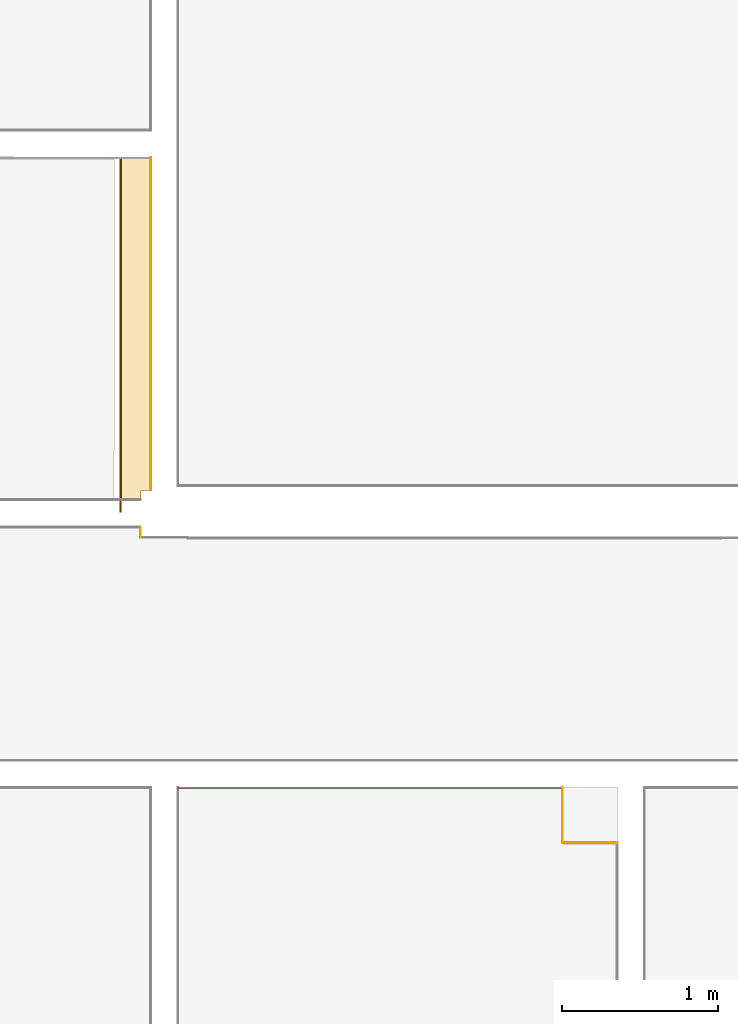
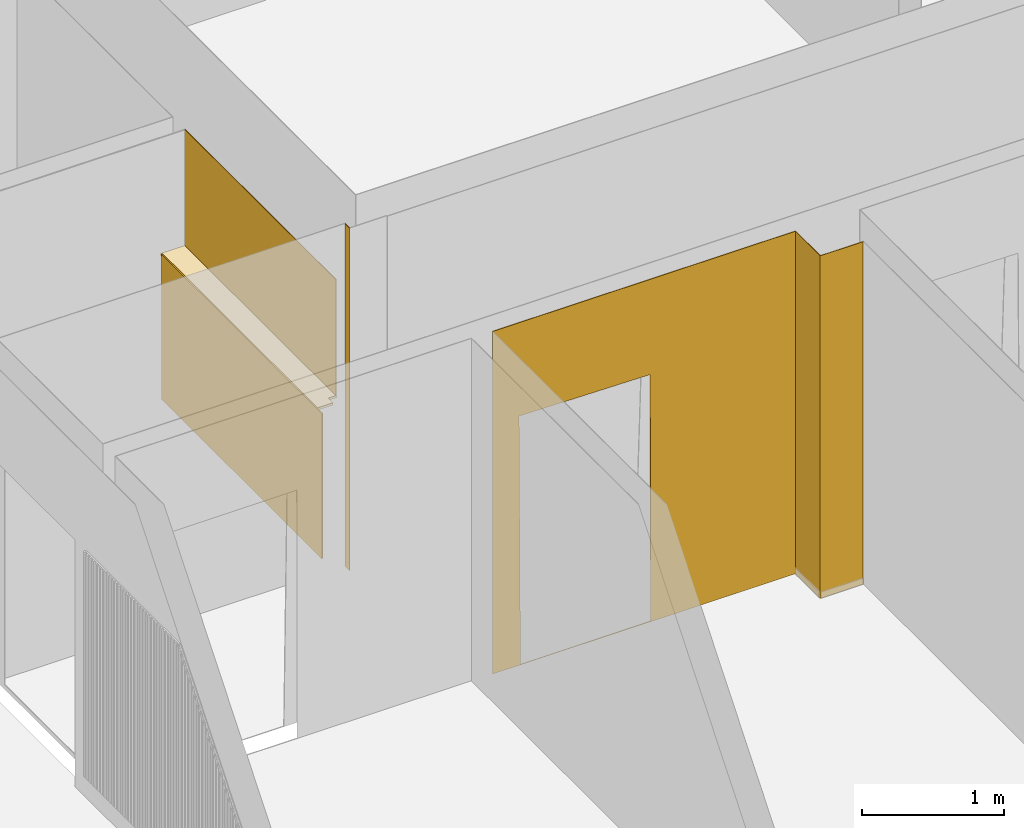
# One storey, part 8 of 33: 7 coverings, 1 opening.
"""IFC2X3 building model written with IfcOpenShell, lengths in millimetres."""

import ifcopenshell
import ifcopenshell.guid

model = None  # the IFC model being written
_history = None  # IfcOwnerHistory: only IFC2X3 demands one
_inside = {}  # id of a spatial element -> (the spatial element, [elements in it])
_under = {}  # id of a project, library or spatial element -> (it, [spatial elements below it])
_declared = {}  # id of a project -> (the project, [libraries it declares])
_typed = {}  # id of a type object -> (the type object, [elements of that type])
_made_of = {}  # id of a material, layer set ... -> (it, [elements and type objects made of it])


def new_model(schema):
    """Start an empty IFC model of exactly this schema.

    Asked for "IFC4X3", IfcOpenShell would pick the latest addendum, in which some entities
    have other attributes; the version numbers below select the first issue.
    IFC2X3 requires an IfcOwnerHistory on every rooted entity: one is made here for all.
    """
    global model, _history
    if schema == "IFC4X3":
        model = ifcopenshell.file(schema_version=(4, 3, 0, 0))
    else:
        model = ifcopenshell.file(schema=schema)
    _inside.clear()
    _under.clear()
    _declared.clear()
    _typed.clear()
    _made_of.clear()
    _history = None
    if model.schema == "IFC2X3":
        org = make("IfcOrganization", Name="unknown")
        user = make(
            "IfcPersonAndOrganization",
            ThePerson=make("IfcPerson", FamilyName="unknown"),
            TheOrganization=org,
        )
        app = make(
            "IfcApplication",
            ApplicationDeveloper=org,
            Version="unknown",
            ApplicationFullName="unknown",
            ApplicationIdentifier="unknown",
        )
        _history = make(
            "IfcOwnerHistory",
            OwningUser=user,
            OwningApplication=app,
            ChangeAction="ADDED",
            CreationDate=0,
        )
    return model


def make(cls, **values):
    """One entity of the class cls with the attributes given. An attribute that is None is left unset."""
    return model.create_entity(
        cls, **{name: value for name, value in values.items() if value is not None}
    )


def entity(cls, *values):
    """Any entity or typed value of the class cls, its attributes in the order of the schema. None: left unset."""
    e = model.create_entity(cls)
    for i, value in enumerate(values):
        if value is not None:
            e[i] = value
    return e


def rooted(cls, **values):
    """An entity with a GlobalId (a new one), such as an element, a storey or a relation."""
    return make(cls, GlobalId=ifcopenshell.guid.new(), OwnerHistory=_history, **values)


def si_unit(unit_type, name, prefix=None):
    """IfcSIUnit, for example si_unit("LENGTHUNIT", "METRE", prefix="MILLI")."""
    return make("IfcSIUnit", UnitType=unit_type, Prefix=prefix, Name=name)


def converted_unit(unit_type, name, factor, base, dimensions=None, offset=None):
    """IfcConversionBasedUnit, such as the inch: factor (a typed value) times the base unit."""
    return make(
        "IfcConversionBasedUnit"
        if offset is None
        else "IfcConversionBasedUnitWithOffset",
        ConversionOffset=offset,
        Dimensions=None
        if dimensions is None
        else entity("IfcDimensionalExponents", *dimensions),
        UnitType=unit_type,
        Name=name,
        ConversionFactor=make(
            "IfcMeasureWithUnit", ValueComponent=factor, UnitComponent=base
        ),
    )


def derived_unit(unit_type, elements):
    """IfcDerivedUnit: a product of units, each with its exponent."""
    return make(
        "IfcDerivedUnit",
        Elements=[
            make("IfcDerivedUnitElement", Unit=unit, Exponent=power)
            for unit, power in elements
        ],
        UnitType=unit_type,
    )


def money_unit(currency):
    """IfcMonetaryUnit."""
    return make("IfcMonetaryUnit", Currency=currency)


def assignment(units):
    """IfcUnitAssignment: the units of a project."""
    return None if units is None else make("IfcUnitAssignment", Units=units)


def point(xyz):
    """IfcCartesianPoint."""
    return None if xyz is None else make("IfcCartesianPoint", Coordinates=xyz)


def direction(xyz):
    """IfcDirection."""
    return None if xyz is None else make("IfcDirection", DirectionRatios=xyz)


def frame(location, z_axis=None, x_axis=None):
    """IfcAxis2Placement3D, a coordinate frame: its origin and axes. An axis left out is left unset."""
    return make(
        "IfcAxis2Placement3D",
        Location=point(location),
        Axis=direction(z_axis),
        RefDirection=direction(x_axis),
    )


def origin_with_axes():
    """The frame at (0, 0, 0) with the z axis (0, 0, 1) and the x axis (1, 0, 0) written out."""
    return frame((0.0, 0.0, 0.0), z_axis=(0.0, 0.0, 1.0), x_axis=(1.0, 0.0, 0.0))


def place(relative_to, where):
    """IfcLocalPlacement: puts the frame where relative to a parent placement (None: the world)."""
    return make(
        "IfcLocalPlacement", PlacementRelTo=relative_to, RelativePlacement=where
    )


def context(
    kind, dimensions, precision=None, world=None, true_north=None, identifier=None
):
    """IfcGeometricRepresentationContext, for example the 3D "Model" context."""
    return make(
        "IfcGeometricRepresentationContext",
        ContextIdentifier=identifier,
        ContextType=kind,
        CoordinateSpaceDimension=dimensions,
        Precision=precision,
        WorldCoordinateSystem=world,
        TrueNorth=true_north,
    )


def subcontext(parent, identifier, kind, view, scale=None):
    """IfcGeometricRepresentationSubContext, for example "Body" below "Model"."""
    return make(
        "IfcGeometricRepresentationSubContext",
        ContextIdentifier=identifier,
        ContextType=kind,
        ParentContext=parent,
        TargetScale=scale,
        TargetView=view,
    )


def project(units=None, contexts=None):
    """IfcProject with its units and contexts."""
    return rooted(
        "IfcProject",
        Name="project",
        RepresentationContexts=contexts,
        UnitsInContext=assignment(units),
    )


def spatial(cls, under=None, at=None, **own):
    """A site, building, storey or space (cls), placed at a placement, below another one or the project."""
    s = rooted(cls, ObjectPlacement=at, **own)
    if under is not None:
        _under.setdefault(under.id(), (under, []))[1].append(s)
    return s


def polyline(points):
    """IfcPolyline through the points."""
    return make("IfcPolyline", Points=[point(p) for p in points])


def outline(outer, holes=None, kind="AREA"):
    """IfcArbitraryClosedProfileDef: a profile drawn as a closed curve; with holes, ...WithVoids."""
    if holes is None:
        return make("IfcArbitraryClosedProfileDef", ProfileType=kind, OuterCurve=outer)
    return make(
        "IfcArbitraryProfileDefWithVoids",
        ProfileType=kind,
        OuterCurve=outer,
        InnerCurves=holes,
    )


def extrude(swept, where, along, depth):
    """IfcExtrudedAreaSolid: the profile swept, set in the frame where, extruded along a direction by depth."""
    return make(
        "IfcExtrudedAreaSolid",
        SweptArea=swept,
        Position=where,
        ExtrudedDirection=direction(along),
        Depth=depth,
    )


def shape(context_of_items, identifier, shape_type, items):
    """IfcShapeRepresentation: the items that make up one representation, for example the "Body"."""
    return make(
        "IfcShapeRepresentation",
        ContextOfItems=context_of_items,
        RepresentationIdentifier=identifier,
        RepresentationType=shape_type,
        Items=items,
    )


def material(Name=None, Category=None):
    """IfcMaterial."""
    return make("IfcMaterial", Name=Name, Category=Category)


def made_of(thing, what):
    """Note that an element or type object is made of a material, layer set ...; save() writes the relation."""
    if what is not None:
        _made_of.setdefault(what.id(), (what, []))[1].append(thing)
    return thing


def type_object(cls, material=None, **own):
    """A type object (cls), such as IfcWallType, which elements share."""
    return made_of(rooted(cls, **own), material)


def element(
    cls,
    number,
    at=None,
    inside=None,
    cuts=None,
    type_object=None,
    material=None,
    context=None,
    identifier="Body",
    shape_type=None,
    held_by="IfcProductDefinitionShape",
    body=None,
    shapes=None,
    **own,
):
    """One element of the class cls, such as IfcWall. Its Tag is "e" and its number.

    at: its placement. inside: the storey or other place that contains it. cuts: it is an
    opening in that element (IfcRelVoidsElement). A single representation is given by context,
    identifier, shape_type and body (its items); several are given by shapes. held_by: the class
    of the entity that holds the representations. save() writes the other relations.
    """
    e = rooted(cls, Tag="e%d" % number, ObjectPlacement=at, **own)
    if body is not None:
        shapes = [shape(context, identifier, shape_type, body)]
    if shapes is not None:
        e.Representation = make(held_by, Representations=shapes)
    if inside is not None:
        _inside.setdefault(inside.id(), (inside, []))[1].append(e)
    if cuts is not None:
        rooted(
            "IfcRelVoidsElement", RelatingBuildingElement=cuts, RelatedOpeningElement=e
        )
    if type_object is not None:
        _typed.setdefault(type_object.id(), (type_object, []))[1].append(e)
    return made_of(e, material)


def aggregate(whole, parts):
    """IfcRelAggregates: a whole, such as a stair, and the parts it consists of."""
    return rooted("IfcRelAggregates", RelatingObject=whole, RelatedObjects=parts)


def save(model, path):
    """Write the relations noted so far, then the file.

    IfcRelAggregates (storeys below a building ...), IfcRelContainedInSpatialStructure (elements
    in a storey), IfcRelDefinesByType, IfcRelAssociatesMaterial and IfcRelDeclares: one each for
    every whole, place, type object, material and project.
    """
    for whole, parts in _under.values():
        aggregate(whole, parts)
    for where, things in _inside.values():
        rooted(
            "IfcRelContainedInSpatialStructure",
            RelatedElements=things,
            RelatingStructure=where,
        )
    for kind, things in _typed.values():
        rooted("IfcRelDefinesByType", RelatedObjects=things, RelatingType=kind)
    for what, things in _made_of.values():
        rooted("IfcRelAssociatesMaterial", RelatedObjects=things, RelatingMaterial=what)
    for by, libraries in _declared.values():
        rooted("IfcRelDeclares", RelatingContext=by, RelatedDefinitions=libraries)
    model.write(path)


model = new_model("IFC2X3")

# Units and contexts
model_context = context("Model", 3, precision=0.01, world=origin_with_axes(), true_north=direction((0.0, 1.0)))
body_context = subcontext(model_context, "Body", "Model", "MODEL_VIEW")
ifc_project = project(units=[si_unit("LENGTHUNIT", "METRE", prefix="MILLI"), si_unit("AREAUNIT", "SQUARE_METRE"), si_unit("VOLUMEUNIT", "CUBIC_METRE"), converted_unit("PLANEANGLEUNIT", "DEGREE", entity("IfcPlaneAngleMeasure", 0.0174532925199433), si_unit("PLANEANGLEUNIT", "RADIAN"), dimensions=[0, 0, 0, 0, 0, 0, 0]), money_unit("EUR"), converted_unit("TIMEUNIT", "Year", entity("IfcTimeMeasure", 31556926.0), si_unit("TIMEUNIT", "SECOND"), dimensions=[0, 0, 1, 0, 0, 0, 0]), si_unit("MASSUNIT", "GRAM", prefix="KILO"), si_unit("THERMODYNAMICTEMPERATUREUNIT", "DEGREE_CELSIUS"), si_unit("LUMINOUSINTENSITYUNIT", "LUMEN"), si_unit("ENERGYUNIT", "JOULE", prefix="MEGA"), derived_unit("THERMALCONDUCTANCEUNIT", [(si_unit("POWERUNIT", "WATT"), 1), (si_unit("LENGTHUNIT", "METRE"), -1), (si_unit("THERMODYNAMICTEMPERATUREUNIT", "KELVIN"), -1)]), derived_unit("SPECIFICHEATCAPACITYUNIT", [(si_unit("ENERGYUNIT", "JOULE"), 1), (si_unit("MASSUNIT", "GRAM", prefix="KILO"), -1), (si_unit("THERMODYNAMICTEMPERATUREUNIT", "KELVIN"), -1)]), derived_unit("MASSDENSITYUNIT", [(si_unit("MASSUNIT", "GRAM", prefix="KILO"), 1), (si_unit("VOLUMEUNIT", "CUBIC_METRE"), -1)])], contexts=[model_context])

# Site, building, storey
site_placement = place(None, origin_with_axes())
site = spatial("IfcSite", under=ifc_project, at=site_placement, Name="Paldiski mnt 245/1, Tallinn, Harjumaa", CompositionType="COMPLEX")
building_placement = place(site_placement, origin_with_axes())
building = spatial("IfcBuilding", under=site, at=building_placement, Name="RKAS Hoone üldnimetus (kasutust iseloomustav) -> IFC Project Manager -> SOLIBRI", CompositionType="ELEMENT")
storey_placement = place(building_placement, origin_with_axes())
storey = spatial("IfcBuildingStorey", under=building, at=storey_placement, Name="Esimene korrus", CompositionType="ELEMENT", Elevation=0.0)

# Coverings
ifc_material_1 = material(Name="SA- Värv SM4(Niiskuskindel värv)")
covering_type_1 = type_object("IfcCoveringType", Name="SA- Värv SM4(Niiskuskindel värv) 5", PredefinedType="CLADDING")
covering_1_placement = place(storey_placement, frame((-35525.00000000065, -4044.999999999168, 1300.0), z_axis=(0.0, 0.0, 1.0), x_axis=(1.662945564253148e-08, -0.9999999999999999, 0.0)))
element("IfcCovering", 1, at=covering_1_placement, inside=storey, type_object=covering_type_1, material=ifc_material_1, Name="SM4", PredefinedType="CLADDING", context=body_context, shape_type="SweptSolid", body=[
    extrude(outline(polyline([(-8.314771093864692e-08, -5.000000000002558), (2135.000001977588, -5.000000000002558), (2135.000001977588, 0.0), (0.0, 0.0), (-8.314771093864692e-08, -5.000000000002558)])), origin_with_axes(), (0.0, 0.0, 1.0), 1000.0),
])
ifc_material_2 = material(Name="SA- Värv SM5(valge)")
covering_type_2 = type_object("IfcCoveringType", Name="SA- Värv SM5(valge) 5", PredefinedType="CLADDING")
covering_2_placement = place(storey_placement, frame((-32535.00000000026, -8435.078493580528, 0.0), z_axis=(0.0, 0.0, 1.0), x_axis=(-0.9999999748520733, 0.0002242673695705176, 0.0)))
element("IfcCovering", 2, at=covering_2_placement, inside=storey, type_object=covering_type_2, material=ifc_material_2, Name="SM4", PredefinedType="CLADDING", context=body_context, shape_type="SweptSolid", body=[
    extrude(outline(polyline([(0.0, 0.0), (350.0000088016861, 0.0), (354.9934118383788, 4.999999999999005), (4.998878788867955, 5.000000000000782), (0.0, 0.0)])), origin_with_axes(), (0.0, 0.0, 1.0), 2950.0),
])
covering_3_placement = place(storey_placement, frame((-32885.00000000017, -8434.999999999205, 0.0), z_axis=(0.0, 0.0, 1.0), x_axis=(-0.001095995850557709, 0.9999993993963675, 0.0)))
element("IfcCovering", 3, at=covering_3_placement, inside=storey, type_object=covering_type_2, material=ifc_material_2, Name="SM4", PredefinedType="CLADDING", context=body_context, shape_type="SweptSolid", body=[
    extrude(outline(polyline([(0.0, 0.0), (350.0002102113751, 0.0), (350.0056901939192, 4.999999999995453), (-4.993403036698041, 4.999999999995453), (0.0, 0.0)])), origin_with_axes(), (0.0, 0.0, 1.0), 2950.0),
])

# Covering, opening
ifc_material_3 = material(Name="SA- Värv SM6(kollane)")
covering_type_3 = type_object("IfcCoveringType", Name="SA- Värv SM6(kollane) 5", PredefinedType="CLADDING")
covering_4_placement = place(storey_placement, frame((-32885.38359877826, -8084.999999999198, 0.0), z_axis=(0.0, 0.0, 1.0), x_axis=(-1.0, 0.0, 0.0)))
covering_4 = element("IfcCovering", 4, at=covering_4_placement, inside=storey, type_object=covering_type_3, material=ifc_material_3, Name="SM6", PredefinedType="CLADDING", context=body_context, shape_type="SweptSolid", body=[
    extrude(outline(polyline([(0.0, 0.0), (2469.616401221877, 0.0), (2469.616401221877, 5.000000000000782), (0.0, 5.000000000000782), (0.0, 0.0)])), origin_with_axes(), (0.0, 0.0, 1.0), 2950.0),
])
opening_placement = place(covering_4_placement, frame((-32885.38359877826, -8084.999999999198, 0.0), z_axis=(0.0, 0.0, 1.0), x_axis=(-1.0, 0.0, 0.0)))
element("IfcOpeningElement", 5, at=opening_placement, cuts=covering_4, Name="AVA", ObjectType="OPENING", context=body_context, shape_type="SweptSolid", body=[
    extrude(outline(polyline([(-535.7855203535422, -1068.567602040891), (524.7976400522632, -1071.159486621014), (535.7855203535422, 1071.159486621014), (-530.8112006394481, 1056.121537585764), (-535.7855203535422, -1068.567602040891)])), frame((-34603.75984023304, -8079.999999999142, 1074.159486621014), z_axis=(0.0, 1.0, 0.0), x_axis=(-1.0, 0.0, 0.0)), (0.0, 0.0, -1.0), 15.00000000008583),
])

# Coverings
ifc_material_4 = material(Name="SA- Värv SM7(beez)")
covering_type_4 = type_object("IfcCoveringType", Name="SA- Värv SM7(beez) 5", PredefinedType="CLADDING")
covering_5_placement = place(storey_placement, frame((-35590.00000000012, -6479.999999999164, 0.0), z_axis=(0.0, 0.0, 1.0), x_axis=(0.0, 1.0, 0.0)))
element("IfcCovering", 6, at=covering_5_placement, inside=storey, type_object=covering_type_4, material=ifc_material_4, Name="SM7", PredefinedType="CLADDING", context=body_context, shape_type="SweptSolid", body=[
    extrude(outline(polyline([(0.0, 0.0), (65.00000000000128, 0.0), (59.99999999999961, 5.000000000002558), (-4.999999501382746, 5.000000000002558), (0.0, 0.0)])), origin_with_axes(), (0.0, 0.0, 1.0), 2950.0),
])
ifc_material_5 = material(Name="SA- Laminaat SM2(kollane laminaat)")
covering_type_5 = type_object("IfcCoveringType", Name="SA- Laminaat SM2(kollane laminaat) 10", PredefinedType="CLADDING")
covering_6_placement = place(storey_placement, frame((-35726.49342919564, -6321.99951285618, 50.0), z_axis=(0.0, 0.0, 1.0), x_axis=(0.0006558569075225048, 0.9999997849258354, 0.0)))
element("IfcCovering", 7, at=covering_6_placement, inside=storey, type_object=covering_type_5, material=ifc_material_5, Name="SM2", PredefinedType="CLADDING", context=body_context, shape_type="SweptSolid", body=[
    extrude(outline(polyline([(0.0, -9.99999999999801), (2264.999999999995, -9.99999999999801), (2264.999999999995, 0.0), (0.0, 0.0), (0.0, -9.99999999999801)])), origin_with_axes(), (0.0, 0.0, 1.0), 1250.0),
])
covering_type_6 = type_object("IfcCoveringType", Name="SA- Laminaat SM2(kollane laminaat) 20", PredefinedType="FLOORING")
covering_7_placement = place(storey_placement, frame((-35726.44284219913, -6244.868380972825, 1280.0), z_axis=(0.0, 0.0, 1.0), x_axis=(1.0, 0.0, 0.0)))
element("IfcCovering", 8, at=covering_7_placement, inside=storey, type_object=covering_type_6, material=ifc_material_5, Name="SM2", PredefinedType="FLOORING", context=body_context, shape_type="SweptSolid", body=[
    extrude(outline(polyline([(0.0, 0.0), (136.442842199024, -0.1316190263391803), (136.4428421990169, 64.86838097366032), (200.0425876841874, 64.86881463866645), (201.4428421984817, 2199.868380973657), (1.442885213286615, 2199.999552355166), (0.0, 0.0)])), origin_with_axes(), (0.0, 0.0, 1.0), 20.0),
])

save(model, "model.ifc")
